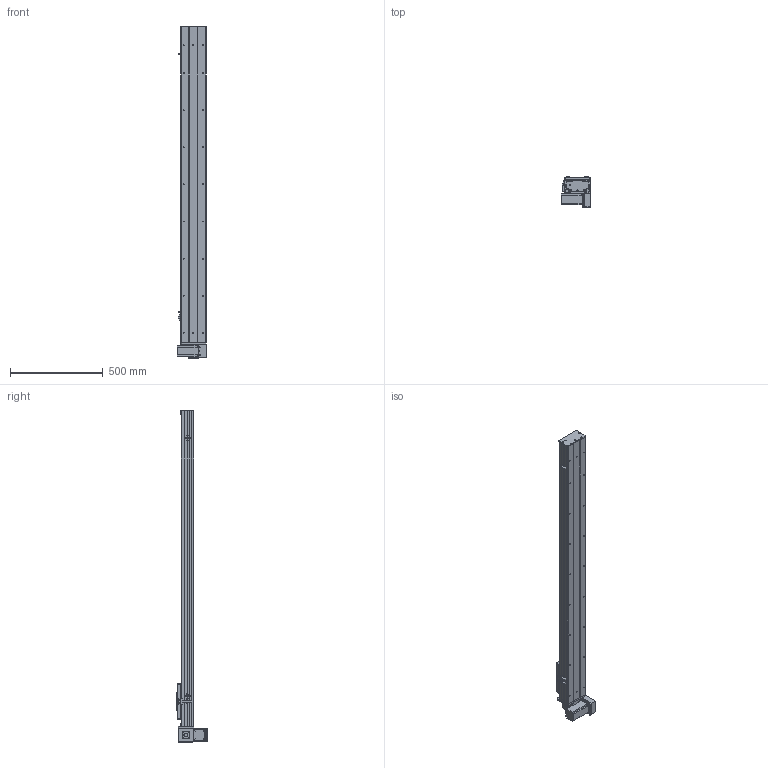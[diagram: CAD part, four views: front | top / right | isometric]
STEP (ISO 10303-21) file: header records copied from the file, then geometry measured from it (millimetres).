
FILE_DESCRIPTION (( 'STEP AP203' ), '1' );
FILE_NAME ('Y135CB-D90-S1400-BM-P400W.STEP', '2020-02-19T01:27:29', ( '微软用户' ), ( '微软中国' ), 'SwSTEP 2.0', 'SolidWorks 2017', '' );
FILE_SCHEMA (( 'CONFIG_CONTROL_DESIGN' ));
Length unit declared in the file: millimetre
Products named in the file (18): Y10B-耜蚾蟀諉啣----; C-詩湍揤踡え-陔; Y135CB-D90-S1400-BM-P400W; 135CB--詩湍-CE; 135CB---遴掛极.-; Y135CB-耜裔; Y100-135俋离換覜ん--; 35CB---喘謫眊楊擘啣; Y135C-陔俋离換覜結え-; 0B-埴倛裔啣; 5C--俋欶; 0B-源倛裔啣; C-雄赽釱--; 0B-萇儂楊擘啣; Y10B--々湍喘謫眊--666; san松下电机400不带刹车----; 00B-俋欶BM--; 5CB --掛极耜裔啣-
Assembly tree (21 placements, depth 2):
  Y135CB-D90-S1400-BM-P400W
    Y135CB-耜裔
    135CB---遴掛极.-
    35CB---喘謫眊楊擘啣
    0B-埴倛裔啣
    0B-源倛裔啣
    0B-萇儂楊擘啣
    san松下电机400不带刹车----
    5CB --掛极耜裔啣-  x2
    C-詩湍揤踡え-陔  x2
    135CB--詩湍-CE
    Y100-135俋离換覜ん--  x3
    Y135C-陔俋离換覜結え-
    5C--俋欶
    C-雄赽釱--
    Y10B--々湍喘謫眊--666
    00B-俋欶BM--
    Y10B-耜蚾蟀諉啣----
Bounding box: 157 x 163.3 x 1788 mm (x, y, z)
Volume: 5425217.2 mm3; surface area: 2133228.9 mm2
Topology: 21 solids, 21 shells, 953 faces, 2563 edges, 1698 vertices
Faces by surface type: cylinder 481, plane 456, cone 16
Entity records: 29753 total; most frequent: DIRECTION 4943, CARTESIAN_POINT 4900, ORIENTED_EDGE 4602, EDGE_CURVE 2301, AXIS2_PLACEMENT_3D 1805, VERTEX_POINT 1526, VECTOR 1333, LINE 1333
